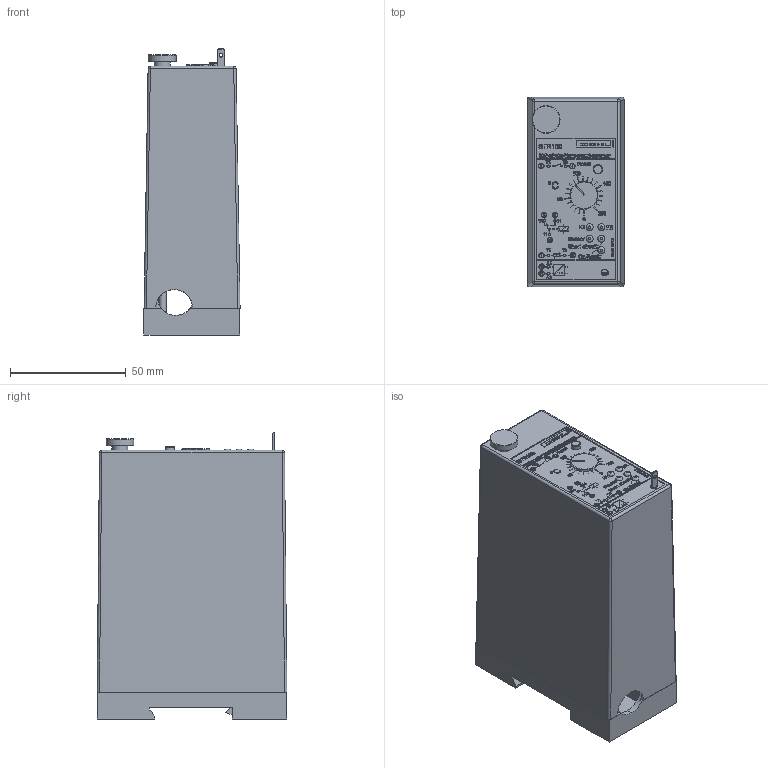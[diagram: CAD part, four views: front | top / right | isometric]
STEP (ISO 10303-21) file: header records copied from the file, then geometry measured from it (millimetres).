
FILE_DESCRIPTION (( 'STEP AP214' ), '1' );
FILE_NAME ('10460-1903-00_3D.STEP', '2014-12-04T12:13:41', ( '' ), ( '' ), 'SwSTEP 2.0', 'SolidWorks 2014', '' );
FILE_SCHEMA (( 'AUTOMOTIVE_DESIGN' ));
Length unit declared in the file: millimetre
Products named in the file (4): 1046 1212_3D; Kopie von 02920-1910-00_3D_Sockel_ohne Details^10460-1903-00_3D; Kopie von 02920-1909-00_3D_S12_ohne Muster^10460-1903-00_3D; 10460-1903-00_3D
Assembly tree (3 placements, depth 2):
  10460-1903-00_3D
    Kopie von 02920-1909-00_3D_S12_ohne Muster^10460-1903-00_3D
    Kopie von 02920-1910-00_3D_Sockel_ohne Details^10460-1903-00_3D
    1046 1212_3D
Bounding box: 41.55 x 82 x 123.65 mm (x, y, z)
Volume: 317147.8 mm3; surface area: 48654.8 mm2
Topology: 224 solids, 224 shells, 4395 faces, 11789 edges, 7853 vertices
Faces by surface type: plane 3937, bspline 423, cylinder 28, sphere 4, cone 2, torus 1
Full cylindrical faces by diameter (mm): 1.6 x1, 3.2 x2, 5 x2, 6.5 x1, 7 x1, 8 x1, 9 x1, 12 x2, 16 x1
Entity records: 148772 total; most frequent: CARTESIAN_POINT 38642, ORIENTED_EDGE 23516, DIRECTION 18915, EDGE_CURVE 11758, LINE 10847, VECTOR 10847, VERTEX_POINT 7849, EDGE_LOOP 4585
